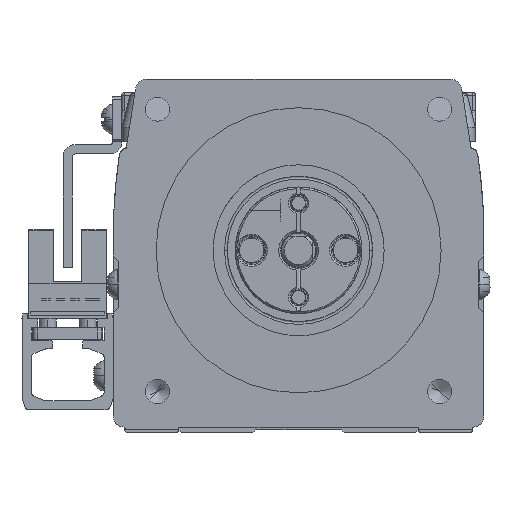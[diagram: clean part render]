
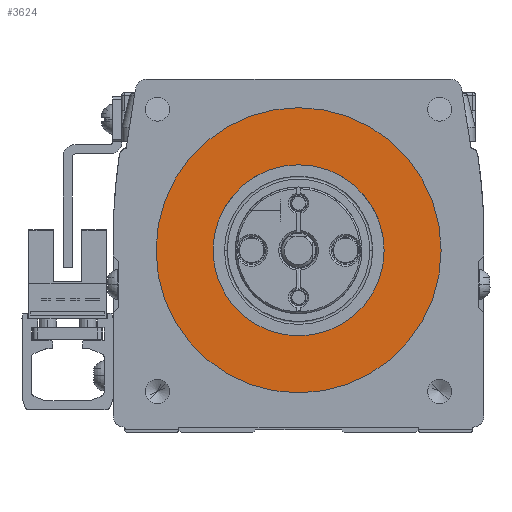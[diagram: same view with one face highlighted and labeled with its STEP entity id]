
A CAD part, left-side view. The second image highlights one B-rep face of the part: STEP entity #3624.
In plain terms, the highlighted planar face has unit normal (-1, 0, 0).
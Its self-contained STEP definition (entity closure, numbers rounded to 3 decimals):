
#3624=ADVANCED_FACE('',(#6443,#6444),#6445,.F.);
#6443=FACE_BOUND('',#12364,.T.);
#6444=FACE_OUTER_BOUND('',#12365,.T.);
#6445=PLANE('',#12366);
#12364=EDGE_LOOP('',(#20520,#20521));
#12365=EDGE_LOOP('',(#20522,#20523));
#12366=AXIS2_PLACEMENT_3D('',#20524,#20525,#20526);
#20520=ORIENTED_EDGE('',*,*,#42795,.T.);
#20521=ORIENTED_EDGE('',*,*,#42893,.T.);
#20522=ORIENTED_EDGE('',*,*,#42926,.T.);
#20523=ORIENTED_EDGE('',*,*,#42787,.T.);
#20524=CARTESIAN_POINT('',(-76.5,0.,0.));
#20525=DIRECTION('',(1.0,0.,0.));
#20526=DIRECTION('',(0.,1.0,0.));
#42787=EDGE_CURVE('',#50036,#50033,#50037,.T.);
#42795=EDGE_CURVE('',#50050,#50047,#50051,.T.);
#42893=EDGE_CURVE('',#50047,#50050,#50212,.T.);
#42926=EDGE_CURVE('',#50033,#50036,#50269,.T.);
#50033=VERTEX_POINT('',#62025);
#50036=VERTEX_POINT('',#62029);
#50037=CIRCLE('',#62030,25.0);
#50047=VERTEX_POINT('',#62065);
#50050=VERTEX_POINT('',#62069);
#50051=CIRCLE('',#62070,15.0);
#50212=CIRCLE('',#62352,15.0);
#50269=CIRCLE('',#62488,25.0);
#62025=CARTESIAN_POINT('',(-76.5,25.,0.));
#62029=CARTESIAN_POINT('',(-76.5,-25.,0.));
#62030=AXIS2_PLACEMENT_3D('',#80393,#80394,#80395);
#62065=CARTESIAN_POINT('',(-76.5,15.0,0.));
#62069=CARTESIAN_POINT('',(-76.5,-15.,0.));
#62070=AXIS2_PLACEMENT_3D('',#80403,#80404,#80405);
#62352=AXIS2_PLACEMENT_3D('',#80563,#80564,#80565);
#62488=AXIS2_PLACEMENT_3D('',#80620,#80621,#80622);
#80393=CARTESIAN_POINT('',(-76.5,0.,0.));
#80394=DIRECTION('',(-1.0,0.,0.));
#80395=DIRECTION('',(0.,1.0,0.));
#80403=CARTESIAN_POINT('',(-76.5,0.,0.));
#80404=DIRECTION('',(1.0,0.,0.));
#80405=DIRECTION('',(0.,1.0,0.));
#80563=CARTESIAN_POINT('',(-76.5,0.,0.));
#80564=DIRECTION('',(1.0,0.,0.));
#80565=DIRECTION('',(0.,1.0,0.));
#80620=CARTESIAN_POINT('',(-76.5,0.,0.));
#80621=DIRECTION('',(-1.0,0.,0.));
#80622=DIRECTION('',(0.,1.0,0.));
